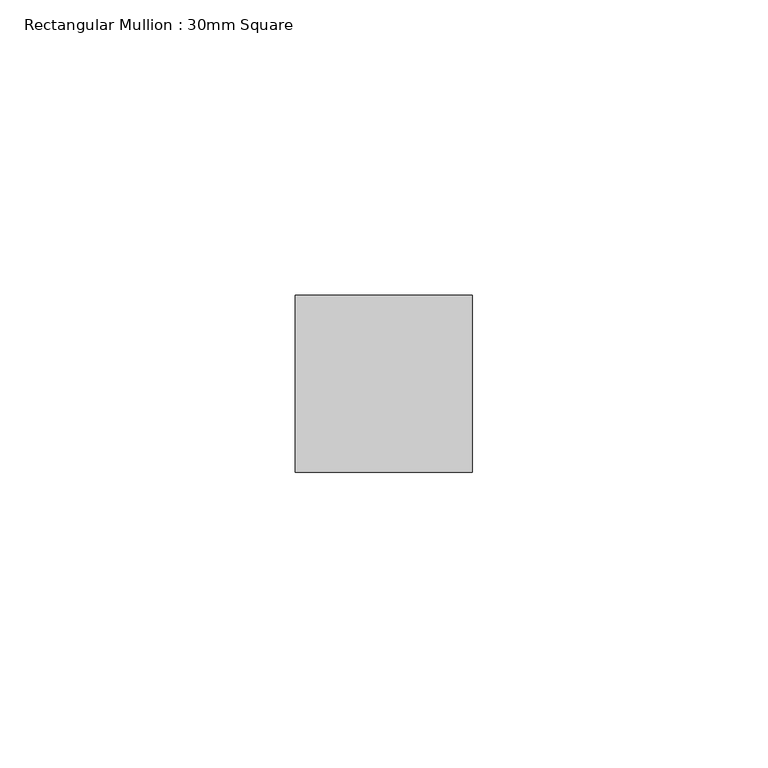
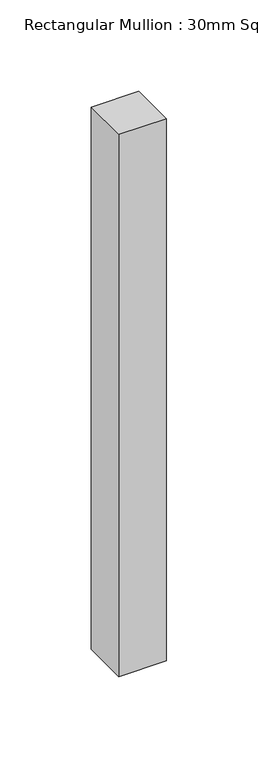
"""IFC4 building model written with IfcOpenShell, lengths in millimetres: member geometry, Rectangular Mullion : 30mm Square."""

from ifc_helpers import new_model, si_unit, frame, origin, place, context, project, spatial, polyline, outline, extrude, source, transform, mapped, element, save


def rectangular_mullion_30mm_square_e6ba2f94(model_context):
    return source(origin(), model_context, "Body", "SweptSolid", [
        extrude(outline(polyline([(15.0, 15.0), (15.0, -15.0), (-15.0, -15.0), (-15.0, 15.0), (15.0, 15.0)])), frame((0.0, 0.0, -362.5169828), z_axis=(0.0, 0.0, 1.0), x_axis=(1.0, 0.0, 0.0)), (0.0, 0.0, 1.0), 362.5169828),
    ])


if __name__ == "__main__":
    model = new_model("IFC4")
    model_context = context("Model", 3, world=origin())
    ifc_project = project(units=[si_unit("LENGTHUNIT", "METRE", prefix="MILLI")], contexts=[model_context])
    site = spatial("IfcSite", under=ifc_project)
    building = spatial("IfcBuilding", under=site)
    placement = place(None, origin())
    rectangular_mullion_30mm_square_shape = rectangular_mullion_30mm_square_e6ba2f94(model_context)
    element("IfcMember", 1, ObjectType="Rectangular Mullion : 30mm Square", at=placement, inside=building, context=model_context, shape_type="MappedRepresentation", body=[
        mapped(rectangular_mullion_30mm_square_shape, transform((0.0, 0.0, 0.0), x_axis=(1.0, 0.0, 0.0), y_axis=(0.0, 1.0, 0.0), z_axis=(0.0, 0.0, 1.0))),
    ])
    save(model, "model.ifc")
